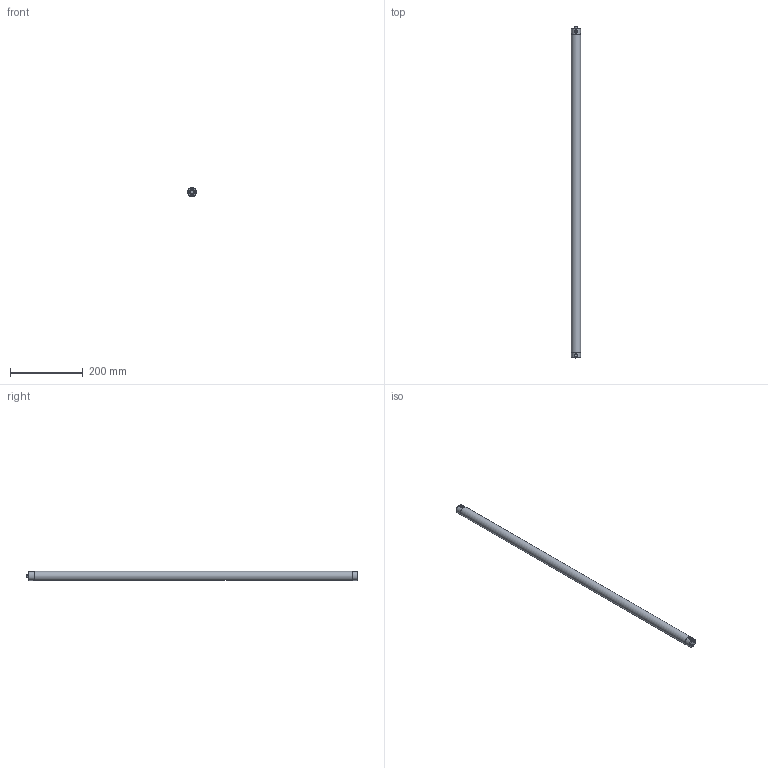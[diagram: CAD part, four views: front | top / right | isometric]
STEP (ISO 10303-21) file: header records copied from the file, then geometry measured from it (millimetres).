
FILE_DESCRIPTION (( 'STEP AP214' ), '1' );
FILE_NAME ('Slimbar 35 LED.STEP', '2011-05-26T17:57:32', ( 'JRLEDS' ), ( '' ), 'SwSTEP 2.0', 'SolidWorks 2010', '' );
FILE_SCHEMA (( 'AUTOMOTIVE_DESIGN' ));
Length unit declared in the file: millimetre
Products named in the file (7): Profilé tube 875mm; Embout non percé; Diffusant 875mm; Connecteur M8; Circuit 5 XPE 10mm; Slimbar 35 LED
Assembly tree (12 placements, depth 2):
  Slimbar 35 LED
    Circuit 5 XPE 10mm  x7
    Embout non percé
    Embout non percé
    Diffusant 875mm
    Connecteur M8
    Profilé tube 875mm
Bounding box: 25.01 x 915 x 25.02 mm (x, y, z)
Volume: 236164 mm3; surface area: 212768.8 mm2
Topology: 12 solids, 12 shells, 373 faces, 903 edges, 600 vertices
Faces by surface type: plane 216, cylinder 144, cone 13
Entity records: 6718 total; most frequent: CARTESIAN_POINT 1547, DIRECTION 997, ORIENTED_EDGE 942, EDGE_CURVE 471, AXIS2_PLACEMENT_3D 372, VERTEX_POINT 312, VECTOR 253, LINE 253
